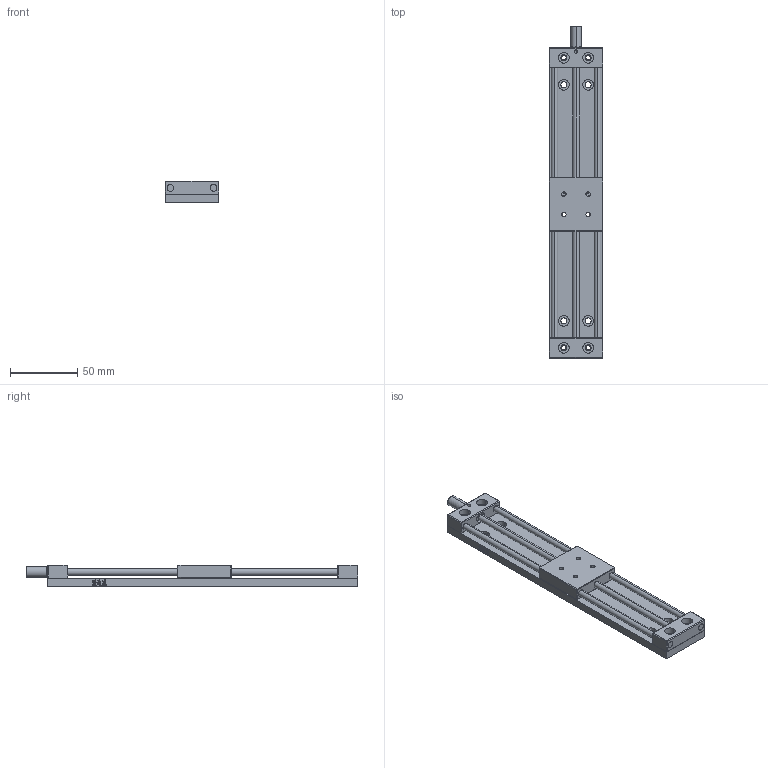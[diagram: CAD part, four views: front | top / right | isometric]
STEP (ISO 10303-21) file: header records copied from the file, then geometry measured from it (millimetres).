
FILE_DESCRIPTION (( 'STEP AP214' ), '1' );
FILE_NAME ('PT-SD160.STEP', '2022-08-27T06:48:47', ( '' ), ( '' ), 'SwSTEP 2.0', 'SolidWorks 2017', '' );
FILE_SCHEMA (( 'AUTOMOTIVE_DESIGN' ));
Length unit declared in the file: millimetre
Products named in the file (3): 菁啣160; PT-SD160; 忒雄PT-SD160す痄怢
Assembly tree (2 placements, depth 2):
  PT-SD160
    忒雄PT-SD160す痄怢
    菁啣160
Bounding box: 40 x 246 x 16 mm (x, y, z)
Volume: 51984.1 mm3; surface area: 44252.4 mm2
Topology: 1 solids, 11 shells, 836 faces, 2306 edges, 1524 vertices
Faces by surface type: plane 560, bspline 168, cylinder 104, cone 4
Entity records: 35746 total; most frequent: CARTESIAN_POINT 15214, ORIENTED_EDGE 4544, DIRECTION 3474, EDGE_CURVE 2306, LINE 1722, VECTOR 1722, VERTEX_POINT 1524, EDGE_LOOP 949
